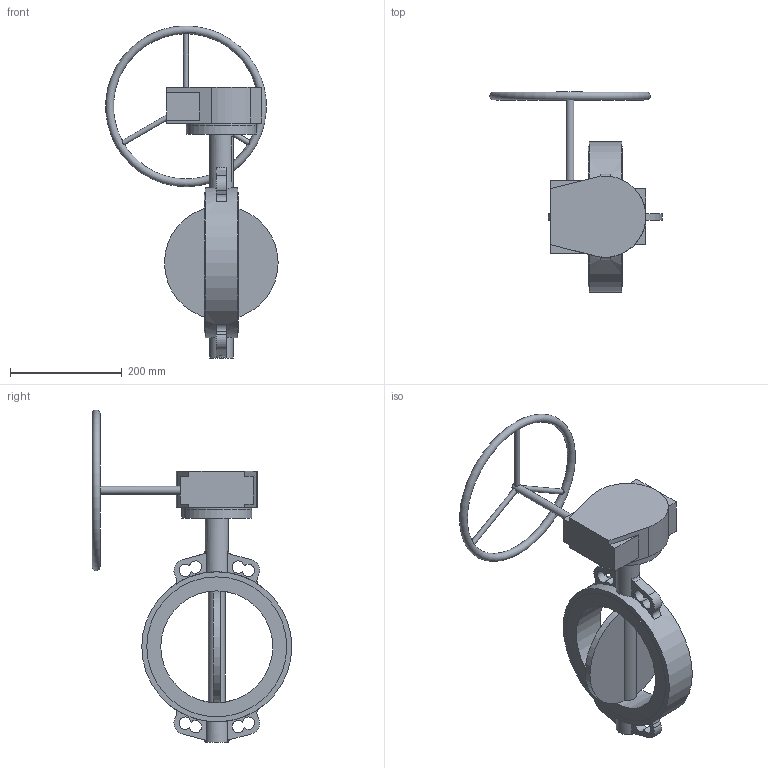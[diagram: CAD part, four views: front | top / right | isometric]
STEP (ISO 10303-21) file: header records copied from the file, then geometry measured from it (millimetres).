
FILE_DESCRIPTION(('STEP AP203'), '1');
FILE_NAME('青蜮铕 015WDN200 疱潴牝铕', '', ('UNSPECIFIED'), ('UNSPECIFIED'), 'ASCON STEP Converter 1.6', 'ASCON Math Kernel', '');
FILE_SCHEMA(('CONFIG_CONTROL_DESIGN'));
Length unit declared in the file: millimetre
Bounding box: 307.63 x 356.5 x 592.98 mm (x, y, z)
Volume: 1617788.3 mm3; surface area: 422395.1 mm2
Topology: 1 solids, 2 shells, 702 faces, 2046 edges, 1318 vertices
Faces by surface type: cylinder 497, plane 198, bspline 6, torus 1
Full cylindrical faces by diameter (mm): 8.5 x4, 9 x3, 12 x4, 14 x1, 22.1 x1, 42 x2, 70 x1, 125 x2, 200 x1, 250 x2, 268 x1
Entity records: 32000 total; most frequent: CARTESIAN_POINT 6944, DIRECTION 4416, ORIENTED_EDGE 3981, EDGE_CURVE 2022, AXIS2_PLACEMENT_3D 1741, VERTEX_POINT 1317, CIRCLE 1044, LINE 934
